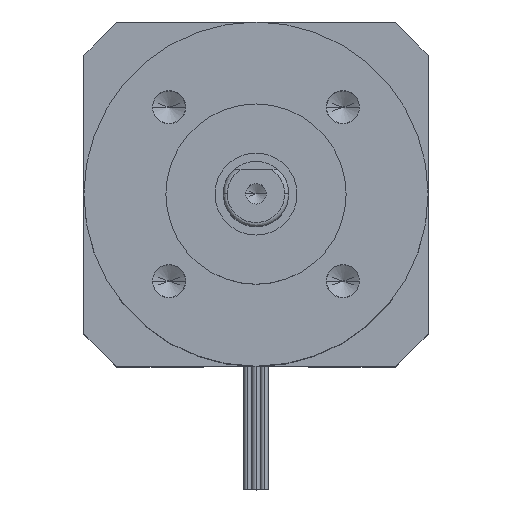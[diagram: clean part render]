
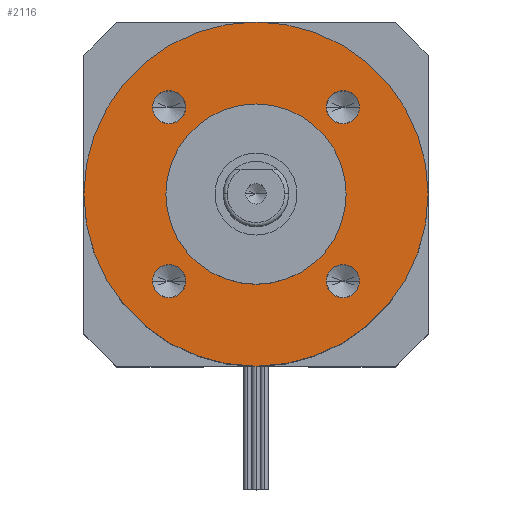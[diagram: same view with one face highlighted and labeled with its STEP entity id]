
A CAD part, top view. The second image highlights one B-rep face of the part: STEP entity #2116.
In plain terms, the highlighted planar face has unit normal (0, 0, 1).
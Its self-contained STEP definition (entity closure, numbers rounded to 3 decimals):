
#121 = VERTEX_POINT ( 'NONE', #424 ) ;
#133 = CARTESIAN_POINT ( 'NONE',  ( -10.607, 10.607, 0. ) ) ;
#141 = VERTEX_POINT ( 'NONE', #3053 ) ;
#143 = DIRECTION ( 'NONE',  ( 0., 0., -1. ) ) ;
#172 = CARTESIAN_POINT ( 'NONE',  ( 10.607, -10.607, 0. ) ) ;
#184 = EDGE_CURVE ( 'NONE', #141, #2836, #1922, .T. ) ;
#196 = DIRECTION ( 'NONE',  ( 0., 0., 1. ) ) ;
#199 = CARTESIAN_POINT ( 'NONE',  ( -21., -21., 0. ) ) ;
#251 = AXIS2_PLACEMENT_3D ( 'NONE', #2480, #1990, #569 ) ;
#304 = CARTESIAN_POINT ( 'NONE',  ( 12.632, -10.607, 0. ) ) ;
#374 = FACE_OUTER_BOUND ( 'NONE', #1139, .T. ) ;
#424 = CARTESIAN_POINT ( 'NONE',  ( -8.582, 10.607, 0. ) ) ;
#425 = AXIS2_PLACEMENT_3D ( 'NONE', #1839, #2083, #2106 ) ;
#484 = DIRECTION ( 'NONE',  ( 1., 0., 0. ) ) ;
#495 = ORIENTED_EDGE ( 'NONE', *, *, #2357, .F. ) ;
#511 = ORIENTED_EDGE ( 'NONE', *, *, #1991, .F. ) ;
#513 = CIRCLE ( 'NONE', #803, 2.025 ) ;
#519 = CIRCLE ( 'NONE', #618, 2.025 ) ;
#564 = VERTEX_POINT ( 'NONE', #633 ) ;
#569 = DIRECTION ( 'NONE',  ( 1., 0., 0. ) ) ;
#618 = AXIS2_PLACEMENT_3D ( 'NONE', #1939, #1897, #484 ) ;
#621 = CARTESIAN_POINT ( 'NONE',  ( 8.582, 10.607, 0. ) ) ;
#633 = CARTESIAN_POINT ( 'NONE',  ( 11., 0., 0. ) ) ;
#663 = AXIS2_PLACEMENT_3D ( 'NONE', #199, #1619, #2850 ) ;
#672 = ORIENTED_EDGE ( 'NONE', *, *, #2727, .F. ) ;
#677 = CIRCLE ( 'NONE', #1807, 2.025 ) ;
#719 = ORIENTED_EDGE ( 'NONE', *, *, #991, .F. ) ;
#760 = VERTEX_POINT ( 'NONE', #2142 ) ;
#777 = FACE_BOUND ( 'NONE', #2997, .T. ) ;
#803 = AXIS2_PLACEMENT_3D ( 'NONE', #2068, #1355, #1587 ) ;
#820 = FACE_BOUND ( 'NONE', #2481, .T. ) ;
#829 = CIRCLE ( 'NONE', #425, 11. ) ;
#851 = CIRCLE ( 'NONE', #1653, 2.025 ) ;
#876 = CARTESIAN_POINT ( 'NONE',  ( 0., 0., 0. ) ) ;
#886 = CARTESIAN_POINT ( 'NONE',  ( 8.582, -10.607, 0. ) ) ;
#891 = DIRECTION ( 'NONE',  ( -1., 0., 0. ) ) ;
#893 = FACE_BOUND ( 'NONE', #2079, .T. ) ;
#895 = DIRECTION ( 'NONE',  ( 0., 0., 1. ) ) ;
#932 = DIRECTION ( 'NONE',  ( 0., 0., -1. ) ) ;
#988 = AXIS2_PLACEMENT_3D ( 'NONE', #2364, #932, #1134 ) ;
#991 = EDGE_CURVE ( 'NONE', #1015, #564, #829, .T. ) ;
#1002 = EDGE_CURVE ( 'NONE', #1656, #1335, #2794, .T. ) ;
#1008 = AXIS2_PLACEMENT_3D ( 'NONE', #172, #895, #2593 ) ;
#1015 = VERTEX_POINT ( 'NONE', #2414 ) ;
#1035 = VERTEX_POINT ( 'NONE', #2265 ) ;
#1046 = EDGE_CURVE ( 'NONE', #2836, #141, #2014, .T. ) ;
#1070 = CIRCLE ( 'NONE', #1552, 11. ) ;
#1134 = DIRECTION ( 'NONE',  ( 1., 0., 0. ) ) ;
#1139 = EDGE_LOOP ( 'NONE', ( #511, #2233 ) ) ;
#1154 = CIRCLE ( 'NONE', #988, 21. ) ;
#1295 = AXIS2_PLACEMENT_3D ( 'NONE', #876, #143, #3064 ) ;
#1335 = VERTEX_POINT ( 'NONE', #304 ) ;
#1355 = DIRECTION ( 'NONE',  ( 0., 0., 1. ) ) ;
#1403 = PLANE ( 'NONE',  #663 ) ;
#1501 = EDGE_LOOP ( 'NONE', ( #3098, #1878 ) ) ;
#1540 = EDGE_CURVE ( 'NONE', #121, #1579, #677, .T. ) ;
#1552 = AXIS2_PLACEMENT_3D ( 'NONE', #2816, #2045, #891 ) ;
#1579 = VERTEX_POINT ( 'NONE', #1682 ) ;
#1587 = DIRECTION ( 'NONE',  ( 1., 0., 0. ) ) ;
#1619 = DIRECTION ( 'NONE',  ( 0., 0., -1. ) ) ;
#1626 = CARTESIAN_POINT ( 'NONE',  ( -8.582, -10.607, 0. ) ) ;
#1653 = AXIS2_PLACEMENT_3D ( 'NONE', #2337, #196, #1813 ) ;
#1656 = VERTEX_POINT ( 'NONE', #886 ) ;
#1662 = EDGE_CURVE ( 'NONE', #2655, #760, #2254, .T. ) ;
#1668 = EDGE_LOOP ( 'NONE', ( #719, #2127 ) ) ;
#1682 = CARTESIAN_POINT ( 'NONE',  ( -12.632, 10.607, 0. ) ) ;
#1807 = AXIS2_PLACEMENT_3D ( 'NONE', #133, #3039, #2287 ) ;
#1813 = DIRECTION ( 'NONE',  ( 1., 0., 0. ) ) ;
#1839 = CARTESIAN_POINT ( 'NONE',  ( 0., 0., 0. ) ) ;
#1878 = ORIENTED_EDGE ( 'NONE', *, *, #184, .F. ) ;
#1897 = DIRECTION ( 'NONE',  ( 0., 0., 1. ) ) ;
#1922 = CIRCLE ( 'NONE', #1925, 2.025 ) ;
#1925 = AXIS2_PLACEMENT_3D ( 'NONE', #3116, #3108, #2628 ) ;
#1939 = CARTESIAN_POINT ( 'NONE',  ( 10.607, -10.607, 0. ) ) ;
#1964 = FACE_BOUND ( 'NONE', #1501, .T. ) ;
#1990 = DIRECTION ( 'NONE',  ( 0., 0., 1. ) ) ;
#1991 = EDGE_CURVE ( 'NONE', #1035, #2574, #2976, .T. ) ;
#2014 = CIRCLE ( 'NONE', #251, 2.025 ) ;
#2045 = DIRECTION ( 'NONE',  ( 0., 0., 1. ) ) ;
#2068 = CARTESIAN_POINT ( 'NONE',  ( -10.607, 10.607, 0. ) ) ;
#2079 = EDGE_LOOP ( 'NONE', ( #2398, #672 ) ) ;
#2083 = DIRECTION ( 'NONE',  ( 0., 0., 1. ) ) ;
#2087 = CARTESIAN_POINT ( 'NONE',  ( 10.607, 10.607, 0. ) ) ;
#2106 = DIRECTION ( 'NONE',  ( -1., 0., 0. ) ) ;
#2116 = ADVANCED_FACE ( 'NONE', ( #893, #820, #777, #1964, #374, #2701 ), #1403, .F. ) ;
#2127 = ORIENTED_EDGE ( 'NONE', *, *, #2665, .F. ) ;
#2129 = EDGE_CURVE ( 'NONE', #2574, #1035, #1154, .T. ) ;
#2142 = CARTESIAN_POINT ( 'NONE',  ( 12.632, 10.607, 0. ) ) ;
#2229 = AXIS2_PLACEMENT_3D ( 'NONE', #2087, #2354, #2832 ) ;
#2233 = ORIENTED_EDGE ( 'NONE', *, *, #2129, .F. ) ;
#2249 = ORIENTED_EDGE ( 'NONE', *, *, #1662, .F. ) ;
#2254 = CIRCLE ( 'NONE', #2229, 2.025 ) ;
#2265 = CARTESIAN_POINT ( 'NONE',  ( 21., 0., 0. ) ) ;
#2287 = DIRECTION ( 'NONE',  ( 1., 0., 0. ) ) ;
#2337 = CARTESIAN_POINT ( 'NONE',  ( 10.607, 10.607, 0. ) ) ;
#2354 = DIRECTION ( 'NONE',  ( 0., 0., 1. ) ) ;
#2357 = EDGE_CURVE ( 'NONE', #1335, #1656, #519, .T. ) ;
#2364 = CARTESIAN_POINT ( 'NONE',  ( 0., 0., 0. ) ) ;
#2398 = ORIENTED_EDGE ( 'NONE', *, *, #1540, .F. ) ;
#2414 = CARTESIAN_POINT ( 'NONE',  ( -11., 0., 0. ) ) ;
#2480 = CARTESIAN_POINT ( 'NONE',  ( -10.607, -10.607, 0. ) ) ;
#2481 = EDGE_LOOP ( 'NONE', ( #2705, #2249 ) ) ;
#2574 = VERTEX_POINT ( 'NONE', #2786 ) ;
#2593 = DIRECTION ( 'NONE',  ( 1., 0., 0. ) ) ;
#2628 = DIRECTION ( 'NONE',  ( 1., 0., 0. ) ) ;
#2655 = VERTEX_POINT ( 'NONE', #621 ) ;
#2657 = EDGE_CURVE ( 'NONE', #760, #2655, #851, .T. ) ;
#2665 = EDGE_CURVE ( 'NONE', #564, #1015, #1070, .T. ) ;
#2701 = FACE_BOUND ( 'NONE', #1668, .T. ) ;
#2705 = ORIENTED_EDGE ( 'NONE', *, *, #2657, .F. ) ;
#2727 = EDGE_CURVE ( 'NONE', #1579, #121, #513, .T. ) ;
#2786 = CARTESIAN_POINT ( 'NONE',  ( -21., 0., 0. ) ) ;
#2794 = CIRCLE ( 'NONE', #1008, 2.025 ) ;
#2805 = ORIENTED_EDGE ( 'NONE', *, *, #1002, .F. ) ;
#2816 = CARTESIAN_POINT ( 'NONE',  ( 0., 0., 0. ) ) ;
#2832 = DIRECTION ( 'NONE',  ( 1., 0., 0. ) ) ;
#2836 = VERTEX_POINT ( 'NONE', #1626 ) ;
#2850 = DIRECTION ( 'NONE',  ( -1., 0., 0. ) ) ;
#2976 = CIRCLE ( 'NONE', #1295, 21. ) ;
#2997 = EDGE_LOOP ( 'NONE', ( #495, #2805 ) ) ;
#3039 = DIRECTION ( 'NONE',  ( 0., 0., 1. ) ) ;
#3053 = CARTESIAN_POINT ( 'NONE',  ( -12.632, -10.607, 0. ) ) ;
#3064 = DIRECTION ( 'NONE',  ( 1., 0., 0. ) ) ;
#3098 = ORIENTED_EDGE ( 'NONE', *, *, #1046, .F. ) ;
#3108 = DIRECTION ( 'NONE',  ( 0., 0., 1. ) ) ;
#3116 = CARTESIAN_POINT ( 'NONE',  ( -10.607, -10.607, 0. ) ) ;
